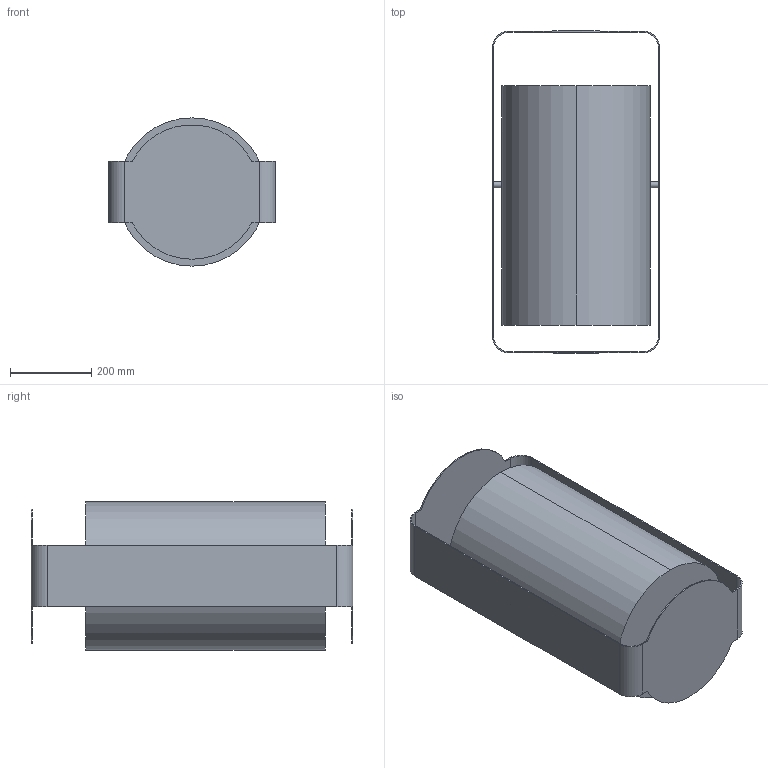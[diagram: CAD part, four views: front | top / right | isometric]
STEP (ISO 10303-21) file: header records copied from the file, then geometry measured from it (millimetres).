
FILE_DESCRIPTION (( 'STEP AP214' ), '1' );
FILE_NAME ('迼縺 ova-tc-1-瀁.STEP', '2023-05-12T12:33:21', ( '' ), ( '' ), 'SwSTEP 2.0', 'SolidWorks 2020', '' );
FILE_SCHEMA (( 'AUTOMOTIVE_DESIGN' ));
Length unit declared in the file: millimetre
Products named in the file (1): 迼縺 ova-tc-1-瀁
Bounding box: 410 x 790 x 364 mm (x, y, z)
Volume: 8468468.9 mm3; surface area: 2367741.7 mm2
Topology: 1 solids, 1 shells, 38 faces, 104 edges, 68 vertices
Faces by surface type: cylinder 22, plane 14, cone 2
Entity records: 1807 total; most frequent: CARTESIAN_POINT 383, DIRECTION 218, ORIENTED_EDGE 208, EDGE_CURVE 104, AXIS2_PLACEMENT_3D 79, VERTEX_POINT 68, VECTOR 60, LINE 60
